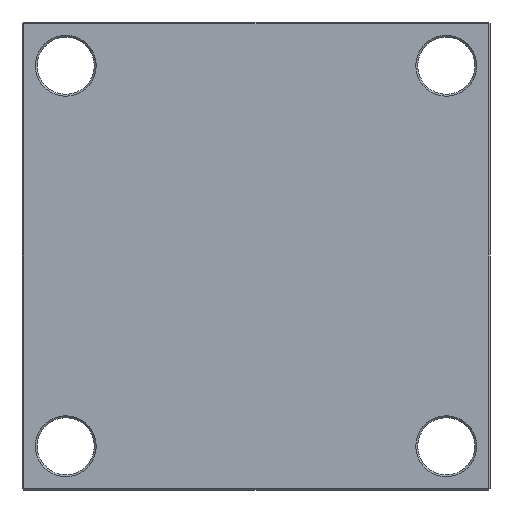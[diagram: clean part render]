
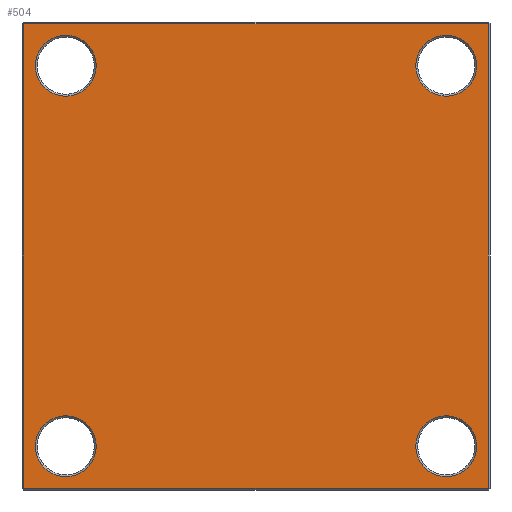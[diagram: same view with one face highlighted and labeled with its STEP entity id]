
A CAD part, front view. The second image highlights one B-rep face of the part: STEP entity #504.
In plain terms, the highlighted planar face has unit normal (0, -1, 0).
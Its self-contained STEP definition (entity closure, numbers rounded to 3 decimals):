
#12 = VECTOR ( 'NONE', #1902, 1000. ) ;
#29 = EDGE_CURVE ( 'NONE', #243, #1740, #2062, .T. ) ;
#42 = CARTESIAN_POINT ( 'NONE',  ( 0., 0., 0. ) ) ;
#46 = CARTESIAN_POINT ( 'NONE',  ( 122., 0., 0. ) ) ;
#53 = EDGE_CURVE ( 'NONE', #1144, #559, #1170, .T. ) ;
#72 = CARTESIAN_POINT ( 'NONE',  ( 122., 0., 122. ) ) ;
#113 = CARTESIAN_POINT ( 'NONE',  ( 100., 0., -116. ) ) ;
#115 = AXIS2_PLACEMENT_3D ( 'NONE', #1717, #380, #1455 ) ;
#116 = EDGE_LOOP ( 'NONE', ( #1159, #1500, #2112, #2142 ) ) ;
#123 = DIRECTION ( 'NONE',  ( 0., 0., 1. ) ) ;
#130 = DIRECTION ( 'NONE',  ( 0., 1., 0. ) ) ;
#142 = CIRCLE ( 'NONE', #990, 16. ) ;
#148 = LINE ( 'NONE', #280, #1012 ) ;
#185 = AXIS2_PLACEMENT_3D ( 'NONE', #1069, #1055, #977 ) ;
#204 = CARTESIAN_POINT ( 'NONE',  ( 100., 0., 100. ) ) ;
#222 = VECTOR ( 'NONE', #443, 1000. ) ;
#243 = VERTEX_POINT ( 'NONE', #1497 ) ;
#266 = ORIENTED_EDGE ( 'NONE', *, *, #29, .T. ) ;
#280 = CARTESIAN_POINT ( 'NONE',  ( 0., 0., -122. ) ) ;
#297 = DIRECTION ( 'NONE',  ( 1., 0., 0. ) ) ;
#350 = EDGE_CURVE ( 'NONE', #1649, #1632, #1669, .T. ) ;
#354 = CARTESIAN_POINT ( 'NONE',  ( -122., 0., 122. ) ) ;
#356 = ORIENTED_EDGE ( 'NONE', *, *, #1986, .T. ) ;
#369 = CARTESIAN_POINT ( 'NONE',  ( -100., 0., -116. ) ) ;
#380 = DIRECTION ( 'NONE',  ( 0., 1., 0. ) ) ;
#382 = ORIENTED_EDGE ( 'NONE', *, *, #2072, .T. ) ;
#439 = CARTESIAN_POINT ( 'NONE',  ( -122., 0., 0. ) ) ;
#443 = DIRECTION ( 'NONE',  ( 0., 0., -1. ) ) ;
#479 = LINE ( 'NONE', #1909, #12 ) ;
#504 = ADVANCED_FACE ( 'NONE', ( #1013, #1875, #612, #1401, #962 ), #1760, .F. ) ;
#536 = CARTESIAN_POINT ( 'NONE',  ( -100., 0., -84. ) ) ;
#542 = DIRECTION ( 'NONE',  ( 0., 0., 1. ) ) ;
#543 = AXIS2_PLACEMENT_3D ( 'NONE', #781, #769, #760 ) ;
#559 = VERTEX_POINT ( 'NONE', #369 ) ;
#565 = CARTESIAN_POINT ( 'NONE',  ( 122., 0., -122. ) ) ;
#609 = LINE ( 'NONE', #46, #1099 ) ;
#612 = FACE_BOUND ( 'NONE', #1182, .T. ) ;
#630 = AXIS2_PLACEMENT_3D ( 'NONE', #42, #1176, #1273 ) ;
#632 = VERTEX_POINT ( 'NONE', #72 ) ;
#642 = DIRECTION ( 'NONE',  ( 0., 0., 1. ) ) ;
#681 = EDGE_LOOP ( 'NONE', ( #2177, #1057 ) ) ;
#760 = DIRECTION ( 'NONE',  ( 0., 0., 1. ) ) ;
#767 = DIRECTION ( 'NONE',  ( 0., 1., 0. ) ) ;
#769 = DIRECTION ( 'NONE',  ( 0., 1., 0. ) ) ;
#777 = CARTESIAN_POINT ( 'NONE',  ( -100., 0., 100. ) ) ;
#781 = CARTESIAN_POINT ( 'NONE',  ( -100., 0., 100. ) ) ;
#854 = CARTESIAN_POINT ( 'NONE',  ( 100., 0., 100. ) ) ;
#916 = VERTEX_POINT ( 'NONE', #2103 ) ;
#962 = FACE_OUTER_BOUND ( 'NONE', #116, .T. ) ;
#977 = DIRECTION ( 'NONE',  ( 0., 0., 1. ) ) ;
#987 = DIRECTION ( 'NONE',  ( 0., 0., 1. ) ) ;
#989 = VERTEX_POINT ( 'NONE', #1400 ) ;
#990 = AXIS2_PLACEMENT_3D ( 'NONE', #204, #130, #123 ) ;
#1012 = VECTOR ( 'NONE', #297, 1000. ) ;
#1013 = FACE_BOUND ( 'NONE', #1414, .T. ) ;
#1017 = VERTEX_POINT ( 'NONE', #565 ) ;
#1051 = EDGE_CURVE ( 'NONE', #989, #1017, #148, .T. ) ;
#1054 = DIRECTION ( 'NONE',  ( 0., 1., 0. ) ) ;
#1055 = DIRECTION ( 'NONE',  ( 0., 1., 0. ) ) ;
#1057 = ORIENTED_EDGE ( 'NONE', *, *, #1956, .T. ) ;
#1069 = CARTESIAN_POINT ( 'NONE',  ( -100., 0., -100. ) ) ;
#1093 = EDGE_CURVE ( 'NONE', #1017, #632, #609, .T. ) ;
#1099 = VECTOR ( 'NONE', #642, 1000. ) ;
#1119 = AXIS2_PLACEMENT_3D ( 'NONE', #777, #767, #987 ) ;
#1126 = ORIENTED_EDGE ( 'NONE', *, *, #53, .T. ) ;
#1139 = DIRECTION ( 'NONE',  ( 0., 1., 0. ) ) ;
#1144 = VERTEX_POINT ( 'NONE', #536 ) ;
#1159 = ORIENTED_EDGE ( 'NONE', *, *, #1093, .T. ) ;
#1170 = CIRCLE ( 'NONE', #2063, 16. ) ;
#1176 = DIRECTION ( 'NONE',  ( 0., 1., 0. ) ) ;
#1182 = EDGE_LOOP ( 'NONE', ( #356, #382 ) ) ;
#1197 = EDGE_LOOP ( 'NONE', ( #1653, #266 ) ) ;
#1273 = DIRECTION ( 'NONE',  ( 0., 0., 1. ) ) ;
#1276 = DIRECTION ( 'NONE',  ( 0., 0., 1. ) ) ;
#1306 = CARTESIAN_POINT ( 'NONE',  ( 100., 0., -100. ) ) ;
#1311 = CARTESIAN_POINT ( 'NONE',  ( 100., 0., 84. ) ) ;
#1335 = VERTEX_POINT ( 'NONE', #354 ) ;
#1400 = CARTESIAN_POINT ( 'NONE',  ( -122., 0., -122. ) ) ;
#1401 = FACE_BOUND ( 'NONE', #681, .T. ) ;
#1414 = EDGE_LOOP ( 'NONE', ( #1890, #1126 ) ) ;
#1455 = DIRECTION ( 'NONE',  ( 0., 0., 1. ) ) ;
#1475 = AXIS2_PLACEMENT_3D ( 'NONE', #1306, #1139, #1276 ) ;
#1497 = CARTESIAN_POINT ( 'NONE',  ( 100., 0., -84. ) ) ;
#1500 = ORIENTED_EDGE ( 'NONE', *, *, #1858, .T. ) ;
#1577 = CARTESIAN_POINT ( 'NONE',  ( -100., 0., 84. ) ) ;
#1624 = LINE ( 'NONE', #439, #222 ) ;
#1632 = VERTEX_POINT ( 'NONE', #1969 ) ;
#1649 = VERTEX_POINT ( 'NONE', #1577 ) ;
#1652 = CIRCLE ( 'NONE', #185, 16. ) ;
#1653 = ORIENTED_EDGE ( 'NONE', *, *, #1811, .T. ) ;
#1669 = CIRCLE ( 'NONE', #1119, 16. ) ;
#1717 = CARTESIAN_POINT ( 'NONE',  ( 100., 0., -100. ) ) ;
#1727 = EDGE_CURVE ( 'NONE', #1335, #989, #1624, .T. ) ;
#1740 = VERTEX_POINT ( 'NONE', #113 ) ;
#1760 = PLANE ( 'NONE',  #630 ) ;
#1761 = AXIS2_PLACEMENT_3D ( 'NONE', #854, #1054, #542 ) ;
#1782 = CIRCLE ( 'NONE', #1761, 16. ) ;
#1792 = DIRECTION ( 'NONE',  ( 0., 1., 0. ) ) ;
#1807 = DIRECTION ( 'NONE',  ( 0., 0., 1. ) ) ;
#1811 = EDGE_CURVE ( 'NONE', #1740, #243, #1900, .T. ) ;
#1819 = CARTESIAN_POINT ( 'NONE',  ( -100., 0., -100. ) ) ;
#1858 = EDGE_CURVE ( 'NONE', #632, #1335, #479, .T. ) ;
#1875 = FACE_BOUND ( 'NONE', #1197, .T. ) ;
#1890 = ORIENTED_EDGE ( 'NONE', *, *, #1940, .T. ) ;
#1900 = CIRCLE ( 'NONE', #1475, 16. ) ;
#1902 = DIRECTION ( 'NONE',  ( -1., 0., 0. ) ) ;
#1909 = CARTESIAN_POINT ( 'NONE',  ( 0., 0., 122. ) ) ;
#1940 = EDGE_CURVE ( 'NONE', #559, #1144, #1652, .T. ) ;
#1944 = VERTEX_POINT ( 'NONE', #1311 ) ;
#1956 = EDGE_CURVE ( 'NONE', #1632, #1649, #2023, .T. ) ;
#1969 = CARTESIAN_POINT ( 'NONE',  ( -100., 0., 116. ) ) ;
#1986 = EDGE_CURVE ( 'NONE', #1944, #916, #142, .T. ) ;
#2023 = CIRCLE ( 'NONE', #543, 16. ) ;
#2062 = CIRCLE ( 'NONE', #115, 16. ) ;
#2063 = AXIS2_PLACEMENT_3D ( 'NONE', #1819, #1792, #1807 ) ;
#2072 = EDGE_CURVE ( 'NONE', #916, #1944, #1782, .T. ) ;
#2103 = CARTESIAN_POINT ( 'NONE',  ( 100., 0., 116. ) ) ;
#2112 = ORIENTED_EDGE ( 'NONE', *, *, #1727, .T. ) ;
#2142 = ORIENTED_EDGE ( 'NONE', *, *, #1051, .T. ) ;
#2177 = ORIENTED_EDGE ( 'NONE', *, *, #350, .T. ) ;
